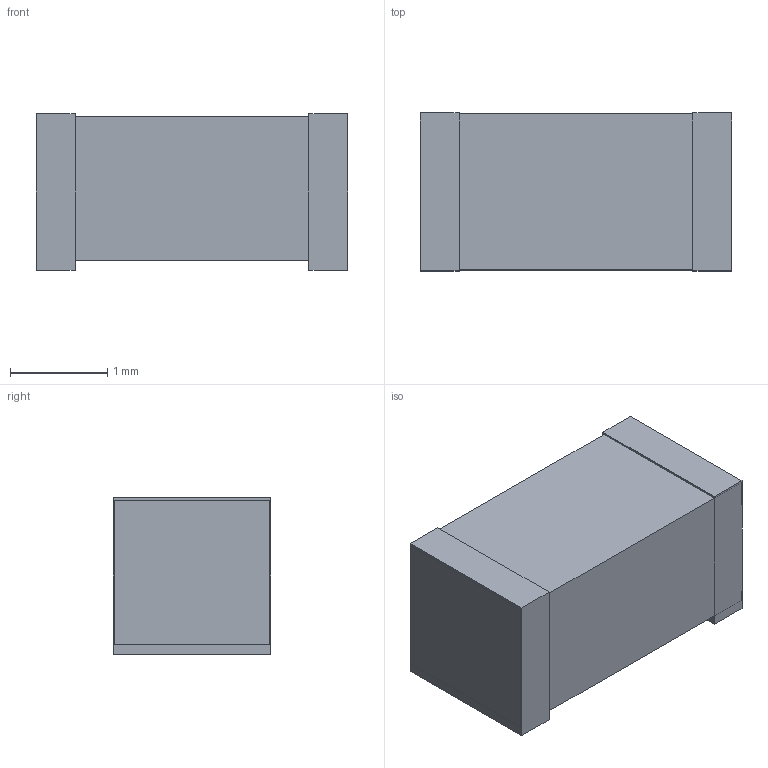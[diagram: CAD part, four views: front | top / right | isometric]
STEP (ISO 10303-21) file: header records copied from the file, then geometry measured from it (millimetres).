
FILE_DESCRIPTION(('FreeCAD Model'),'2;1');
FILE_NAME('Open CASCADE Shape Model','2026-09-21T21:53:17',('FreeCAD'),( 'FreeCAD'),'Open CASCADE STEP processor 7.8','FreeCAD','Unknown');
FILE_SCHEMA(('AUTOMOTIVE_DESIGN { 1 0 10303 214 1 1 1 1 }'));
Length unit declared in the file: millimetre
Products named in the file (1): Open CASCADE STEP translator 7.8 11
Bounding box: 3.2 x 1.62 x 1.6 mm (x, y, z)
Surface area: 40 mm2
Topology: 3 solids, 3 shells, 18 faces, 36 edges, 24 vertices
Faces by surface type: plane 18
Entity records: 466 total; most frequent: CARTESIAN_POINT 79, DIRECTION 74, ORIENTED_EDGE 72, EDGE_CURVE 36, LINE 36, VECTOR 36, VERTEX_POINT 24, AXIS2_PLACEMENT_3D 19
